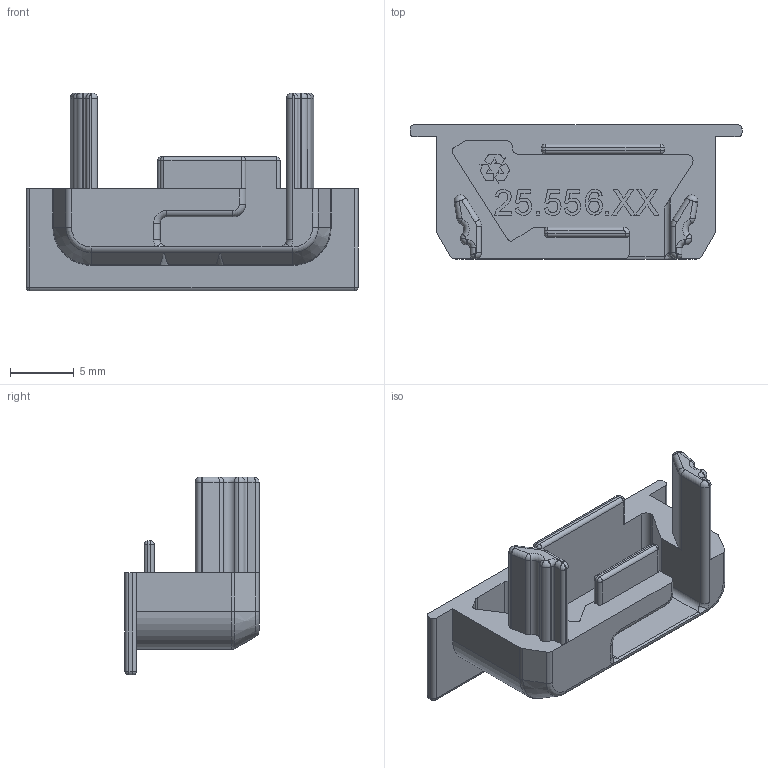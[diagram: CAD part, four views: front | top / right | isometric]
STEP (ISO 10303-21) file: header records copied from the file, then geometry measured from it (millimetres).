
FILE_DESCRIPTION (( 'STEP AP203' ), '1' );
FILE_NAME ('Endkappen_ChannelLine_G2_L_24.STEP', '2024-11-29T05:48:53', ( '' ), ( '' ), 'SwSTEP 2.0', 'SolidWorks 2023', '' );
FILE_SCHEMA (( 'CONFIG_CONTROL_DESIGN' ));
Length unit declared in the file: millimetre
Products named in the file (1): Endkappen_ChannelLine_G2_L_24
Bounding box: 26 x 10.5 x 15.5 mm (x, y, z)
Volume: 982.8 mm3; surface area: 1418.9 mm2
Topology: 1 solids, 1 shells, 347 faces, 916 edges, 571 vertices
Faces by surface type: plane 152, cylinder 89, bspline 63, torus 28, sphere 11, cone 4
Entity records: 13058 total; most frequent: CARTESIAN_POINT 4785, ORIENTED_EDGE 1806, DIRECTION 1554, EDGE_CURVE 903, VERTEX_POINT 571, LINE 558, VECTOR 558, AXIS2_PLACEMENT_3D 498
